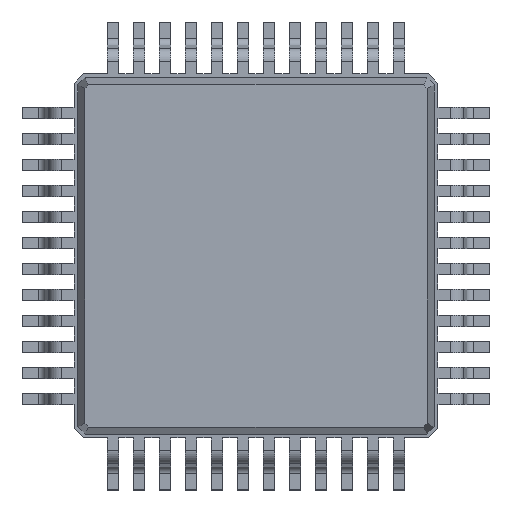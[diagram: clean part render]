
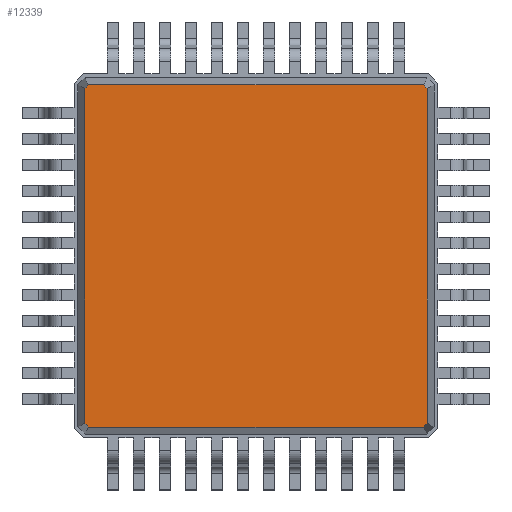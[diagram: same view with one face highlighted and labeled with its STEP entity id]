
A CAD part, top view. The second image highlights one B-rep face of the part: STEP entity #12339.
In plain terms, the highlighted planar face has unit normal (0, 0, 1).
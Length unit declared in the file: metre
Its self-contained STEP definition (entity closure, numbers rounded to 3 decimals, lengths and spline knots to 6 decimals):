
#1822=ORIENTED_EDGE('',*,*,#5249,.F.);
#1823=ORIENTED_EDGE('',*,*,#5250,.F.);
#1824=ORIENTED_EDGE('',*,*,#5251,.F.);
#1825=ORIENTED_EDGE('',*,*,#5246,.F.);
#1826=ORIENTED_EDGE('',*,*,#5237,.F.);
#1827=ORIENTED_EDGE('',*,*,#5244,.F.);
#1828=ORIENTED_EDGE('',*,*,#5252,.F.);
#1829=ORIENTED_EDGE('',*,*,#5253,.F.);
#5237=EDGE_CURVE('',#6827,#6828,#8057,.T.);
#5244=EDGE_CURVE('',#6833,#6827,#8062,.T.);
#5246=EDGE_CURVE('',#6828,#6834,#8064,.T.);
#5249=EDGE_CURVE('',#6836,#6837,#8067,.T.);
#5250=EDGE_CURVE('',#6838,#6836,#8068,.T.);
#5251=EDGE_CURVE('',#6834,#6838,#8069,.T.);
#5252=EDGE_CURVE('',#6839,#6833,#8070,.T.);
#5253=EDGE_CURVE('',#6837,#6839,#8071,.T.);
#6827=VERTEX_POINT('',#19550);
#6828=VERTEX_POINT('',#19552);
#6833=VERTEX_POINT('',#19565);
#6834=VERTEX_POINT('',#19570);
#6836=VERTEX_POINT('',#19576);
#6837=VERTEX_POINT('',#19577);
#6838=VERTEX_POINT('',#19579);
#6839=VERTEX_POINT('',#19582);
#8057=LINE('',#19551,#9513);
#8062=LINE('',#19566,#9518);
#8064=LINE('',#19569,#9520);
#8067=LINE('',#19575,#9523);
#8068=LINE('',#19578,#9524);
#8069=LINE('',#19580,#9525);
#8070=LINE('',#19581,#9526);
#8071=LINE('',#19583,#9527);
#9513=VECTOR('',#15877,1.);
#9518=VECTOR('',#15890,1.);
#9520=VECTOR('',#15894,1.);
#9523=VECTOR('',#15899,1.);
#9524=VECTOR('',#15900,1.);
#9525=VECTOR('',#15901,1.);
#9526=VECTOR('',#15902,1.);
#9527=VECTOR('',#15903,1.);
#10576=EDGE_LOOP('',(#1822,#1823,#1824,#1825,#1826,#1827,#1828,#1829));
#11228=FACE_BOUND('',#10576,.T.);
#11773=PLANE('',#13663);
#12339=ADVANCED_FACE('',(#11228),#11773,.T.);
#13663=AXIS2_PLACEMENT_3D('',#19574,#15897,#15898);
#15877=DIRECTION('',(1.,0.,0.));
#15890=DIRECTION('',(0.707,0.707,0.));
#15894=DIRECTION('',(0.707,-0.707,0.));
#15897=DIRECTION('',(0.,0.,1.));
#15898=DIRECTION('',(-0.699,0.715,0.));
#15899=DIRECTION('',(-1.,0.,0.));
#15900=DIRECTION('',(-0.707,-0.707,0.));
#15901=DIRECTION('',(0.,-1.,0.));
#15902=DIRECTION('',(0.,1.,0.));
#15903=DIRECTION('',(-0.707,0.707,0.));
#19550=CARTESIAN_POINT('',(0.155789,-0.1102,0.003095));
#19551=CARTESIAN_POINT('',(0.155789,-0.1102,0.003095));
#19552=CARTESIAN_POINT('',(0.162231,-0.1102,0.003095));
#19565=CARTESIAN_POINT('',(0.155718,-0.110271,0.003095));
#19566=CARTESIAN_POINT('',(0.155718,-0.110271,0.003095));
#19569=CARTESIAN_POINT('',(0.162231,-0.1102,0.003095));
#19570=CARTESIAN_POINT('',(0.162302,-0.110271,0.003095));
#19574=CARTESIAN_POINT('',(0.162231,-0.116785,0.003095));
#19575=CARTESIAN_POINT('',(0.162231,-0.116785,0.003095));
#19576=CARTESIAN_POINT('',(0.162231,-0.116785,0.003095));
#19577=CARTESIAN_POINT('',(0.155789,-0.116785,0.003095));
#19578=CARTESIAN_POINT('',(0.162302,-0.116714,0.003095));
#19579=CARTESIAN_POINT('',(0.162302,-0.116714,0.003095));
#19580=CARTESIAN_POINT('',(0.162302,-0.110271,0.003095));
#19581=CARTESIAN_POINT('',(0.155718,-0.116714,0.003095));
#19582=CARTESIAN_POINT('',(0.155718,-0.116714,0.003095));
#19583=CARTESIAN_POINT('',(0.155789,-0.116785,0.003095));
